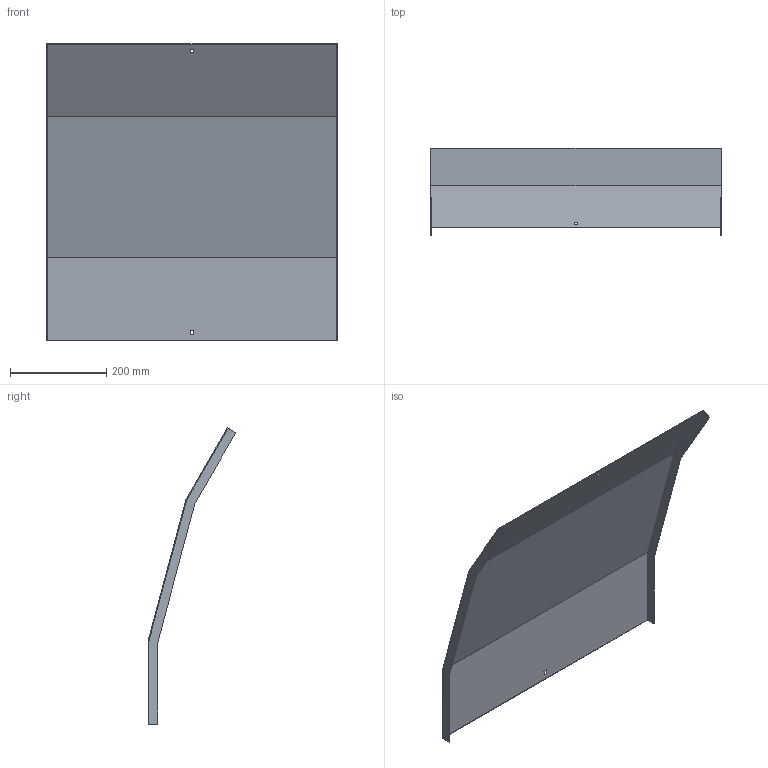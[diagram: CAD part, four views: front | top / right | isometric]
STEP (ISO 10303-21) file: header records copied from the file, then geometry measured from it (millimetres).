
FILE_DESCRIPTION (( 'STEP AP214' ), '1' );
FILE_NAME ('35N5F600.step', '2025-02-21T14:24:22', ( '' ), ( '' ), 'SwSTEP 2.0', 'SolidWorks 2023', '' );
FILE_SCHEMA (( 'AUTOMOTIVE_DESIGN' ));
Length unit declared in the file: millimetre
Products named in the file (1): 35N5F600
Bounding box: 603 x 182.13 x 615.07 mm (x, y, z)
Volume: 621744 mm3; surface area: 832920.2 mm2
Topology: 1 solids, 1 shells, 26 faces, 72 edges, 48 vertices
Faces by surface type: plane 26
Entity records: 847 total; most frequent: CARTESIAN_POINT 147, ORIENTED_EDGE 144, DIRECTION 126, VECTOR 72, LINE 72, EDGE_CURVE 72, VERTEX_POINT 48, EDGE_LOOP 30
